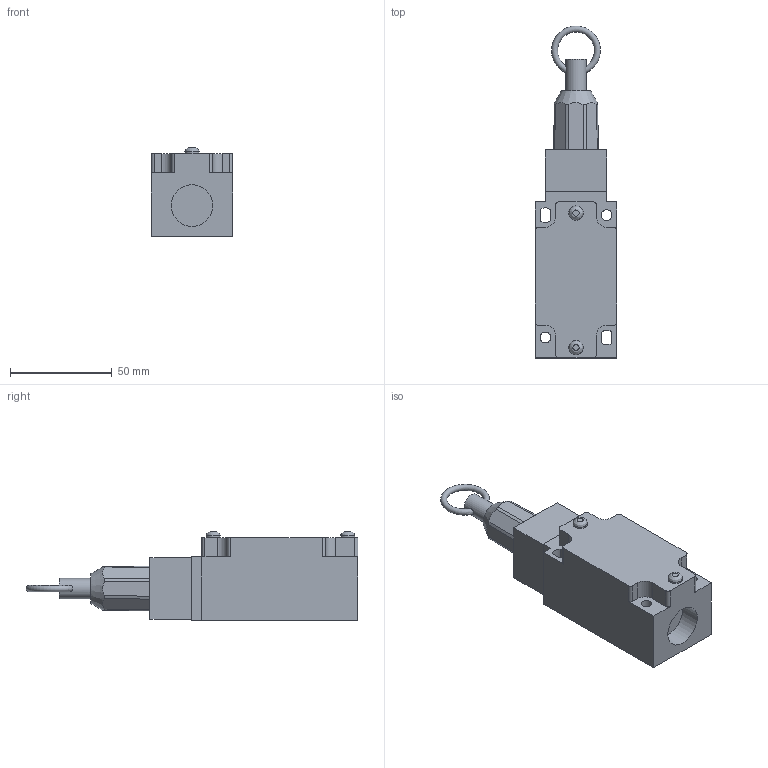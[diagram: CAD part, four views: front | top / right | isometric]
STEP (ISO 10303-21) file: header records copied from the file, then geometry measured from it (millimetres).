
FILE_DESCRIPTION((''),'2;1');
FILE_NAME('C:\Workarea\Disegni\Comepi\Catalogo\Stp\Finecorsa\SBM1-K97.stp','2011-09-06T09:13:11',('Paolo'),(''),'Autodesk Inventor 2012','Autodesk Inventor 2012','');
FILE_SCHEMA(('AUTOMOTIVE_DESIGN { 1 0 10303 214 1 1 1 1 }'));
Length unit declared in the file: millimetre
Products named in the file (5): SBM1-K97; SBM1; K97; K97_1; K97_2
Assembly tree (4 placements, depth 3):
  SBM1-K97
    SBM1
    K97
      K97_1
      K97_2
Bounding box: 40 x 162.75 x 43.3 mm (x, y, z)
Volume: 146801.4 mm3; surface area: 26917.2 mm2
Topology: 3 solids, 3 shells, 82 faces, 214 edges, 142 vertices
Faces by surface type: plane 47, cylinder 23, cone 9, bspline 2, torus 1
Full cylindrical faces by diameter (mm): 5.3 x2, 7 x2, 10 x2, 20.4 x1
Entity records: 2720 total; most frequent: CARTESIAN_POINT 635, DIRECTION 416, ORIENTED_EDGE 398, EDGE_CURVE 199, AXIS2_PLACEMENT_3D 154, VERTEX_POINT 139, EDGE_LOOP 108, VECTOR 108
